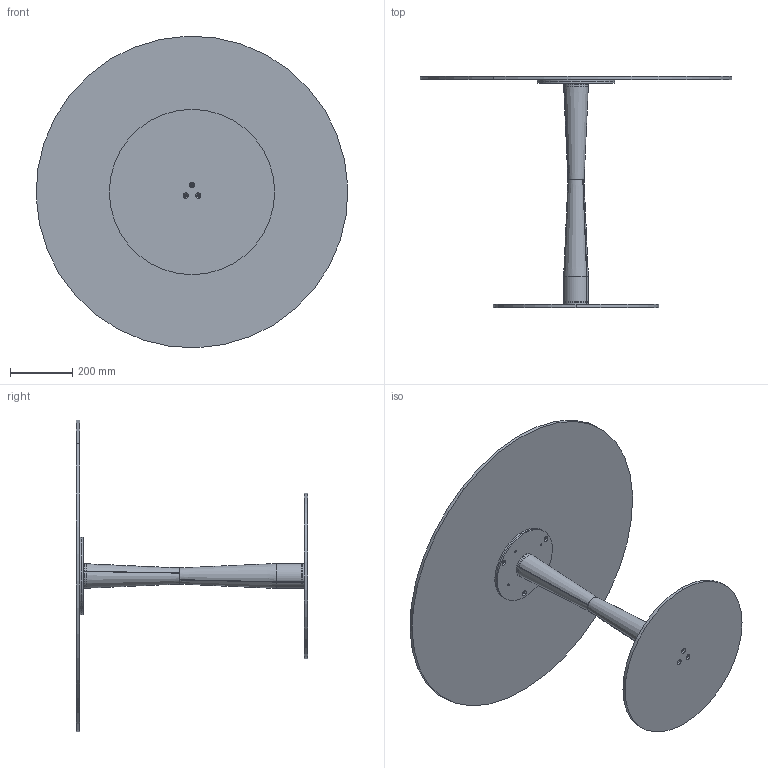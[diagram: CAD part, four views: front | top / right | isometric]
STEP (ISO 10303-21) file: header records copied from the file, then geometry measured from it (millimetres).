
FILE_DESCRIPTION (( 'STEP AP203' ), '1' );
FILE_NAME ('FI30G.STEP', '2024-08-08T08:01:52', ( '' ), ( '' ), 'SwSTEP 2.0', 'SolidWorks 2022', '' );
FILE_SCHEMA (( 'CONFIG_CONTROL_DESIGN' ));
Length unit declared in the file: millimetre
Products named in the file (10): CBS000000BAS-00-BISTRO PIASTRA INFERIORE_D.530; CXXCRXX-00-Piani Rotondi in Cristallo CON PIASTRA_C03P PIANO CRISTALLO D.100cm; C1XCRMXX-00-piani Rotondi Cristallo_C03 D.100cm; FIL000000_01-00-Tubo Conificato superiore_tagliato; FIL000000_03-00-Piastra per Tubi conificati FILU; FIL000000COL-01-FILU'' COLONNA CENTRALE; CBS200000PST-00-CONTROPIASTRA PER PIASTRA D.25cm GREZZO_250; FIL000000_02-00-Tubo Conificato inferiore_tagliato; P0000003-00-STAFFA DI FISSAGGIO DIAMETRO 250_P0000003-250mm normale; FI30G
Assembly tree (10 placements, depth 3):
  FI30G
    CBS000000BAS-00-BISTRO PIASTRA INFERIORE_D.530
    CBS200000PST-00-CONTROPIASTRA PER PIASTRA D.25cm GREZZO_250
    FIL000000COL-01-FILU'' COLONNA CENTRALE
      FIL000000_02-00-Tubo Conificato inferiore_tagliato
      FIL000000_01-00-Tubo Conificato superiore_tagliato
      FIL000000_03-00-Piastra per Tubi conificati FILU  x2
    CXXCRXX-00-Piani Rotondi in Cristallo CON PIASTRA_C03P PIANO CRISTALLO D.100cm
      C1XCRMXX-00-piani Rotondi Cristallo_C03 D.100cm
      P0000003-00-STAFFA DI FISSAGGIO DIAMETRO 250_P0000003-250mm normale
Bounding box: 999.51 x 741 x 999.51 mm (x, y, z)
Volume: 10927953.7 mm3; surface area: 2581168.2 mm2
Topology: 8 solids, 8 shells, 114 faces, 264 edges, 166 vertices
Faces by surface type: cylinder 64, cone 34, plane 16
Entity records: 4194 total; most frequent: DIRECTION 628, CARTESIAN_POINT 509, ORIENTED_EDGE 480, AXIS2_PLACEMENT_3D 269, EDGE_CURVE 240, VERTEX_POINT 150, EDGE_LOOP 150, CIRCLE 150
